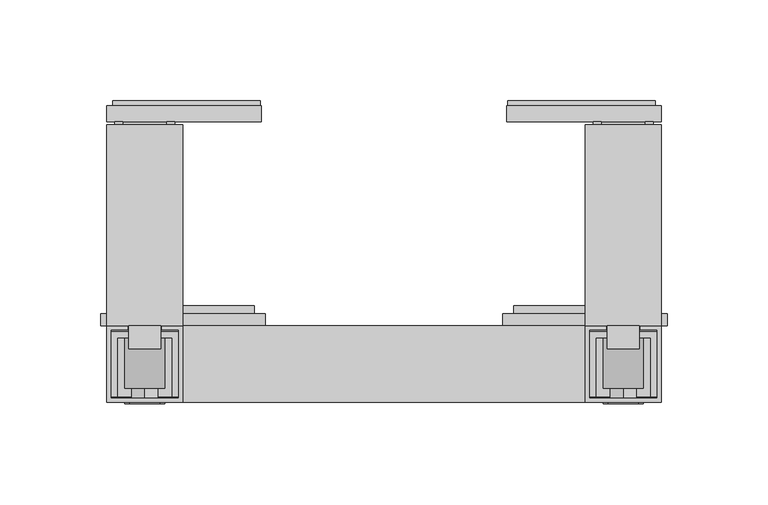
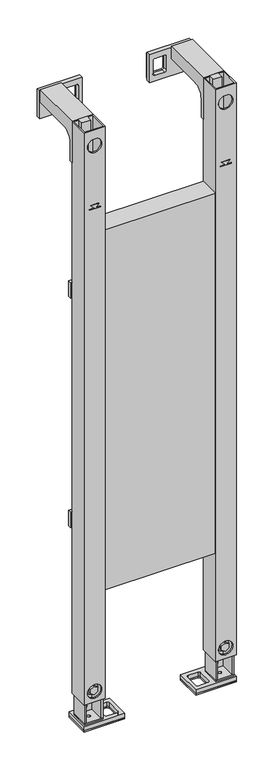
"""IFC4 building model written with IfcOpenShell, lengths in millimetres: flow terminal geometry, nextVIT Stütz-Stützklappgriff-Element : nextVIT Stütz-Stützklappgriff-Element."""

from ifc_helpers import new_model, si_unit, point, frame, frame_2d, origin, origin_with_axes, place, context, project, spatial, polyline, circle_curve, trimmed, segment, composite_curve, outline, extrude, source, transform, mapped, element, save
from ifc_brep_helpers import plane_surface, revolved_surface, advanced_brep


def flow_terminal_50447908(model_context):
    return source(origin(), model_context, "Body", "SolidModel", [
        extrude(outline(polyline([(64.5, -102.0), (138.0, -102.0), (138.0, -150.0), (64.5, -150.0), (64.5, -102.0)]), holes=[composite_curve([segment(trimmed(circle_curve(frame_2d((74.0, -139.0)), 3.0), [point((71.0, -139.0))], [point((74.0, -142.0))], True, "CARTESIAN"), True, "CONTINUOUS"), segment(polyline([(74.0, -142.0), (91.5, -142.0)]), True, "CONTINUOUS"), segment(trimmed(circle_curve(frame_2d((91.5, -139.0)), 3.0), [point((91.5, -142.0))], [point((94.5, -139.0))], True, "CARTESIAN"), True, "CONTINUOUS"), segment(polyline([(94.5, -139.0), (94.5, -113.0)]), True, "CONTINUOUS"), segment(trimmed(circle_curve(frame_2d((91.5, -113.0)), 3.0), [point((94.5, -113.0))], [point((91.5, -110.0))], True, "CARTESIAN"), True, "CONTINUOUS"), segment(polyline([(91.5, -110.0), (74.0, -110.0)]), True, "CONTINUOUS"), segment(trimmed(circle_curve(frame_2d((74.0, -113.0)), 3.0), [point((74.0, -110.0))], [point((71.0, -113.0))], True, "CARTESIAN"), True, "CONTINUOUS"), segment(polyline([(71.0, -113.0), (71.0, -139.0)]), True, "CONTINUOUS")], self_intersect=False)]), origin_with_axes(), (0.0, 0.0, 1.0), 2.5),
        extrude(outline(polyline([(64.5, -102.0), (138.0, -102.0), (138.0, -150.0), (64.5, -150.0), (64.5, -102.0)]), holes=[composite_curve([segment(trimmed(circle_curve(frame_2d((74.0, -139.0)), 3.0), [point((71.0, -139.0))], [point((74.0, -142.0))], True, "CARTESIAN"), True, "CONTINUOUS"), segment(polyline([(74.0, -142.0), (91.5, -142.0)]), True, "CONTINUOUS"), segment(trimmed(circle_curve(frame_2d((91.5, -139.0)), 3.0), [point((91.5, -142.0))], [point((94.5, -139.0))], True, "CARTESIAN"), True, "CONTINUOUS"), segment(polyline([(94.5, -139.0), (94.5, -113.0)]), True, "CONTINUOUS"), segment(trimmed(circle_curve(frame_2d((91.5, -113.0)), 3.0), [point((94.5, -113.0))], [point((91.5, -110.0))], True, "CARTESIAN"), True, "CONTINUOUS"), segment(polyline([(91.5, -110.0), (74.0, -110.0)]), True, "CONTINUOUS"), segment(trimmed(circle_curve(frame_2d((74.0, -113.0)), 3.0), [point((74.0, -110.0))], [point((71.0, -113.0))], True, "CARTESIAN"), True, "CONTINUOUS"), segment(polyline([(71.0, -113.0), (71.0, -139.0)]), True, "CONTINUOUS")], self_intersect=False), composite_curve([segment(trimmed(circle_curve(frame_2d((120.45, -121.0)), 3.25), [point((123.7, -121.0))], [point((117.2, -121.0))], True, "CARTESIAN"), True, "CONTINUOUS"), segment(polyline([(117.2, -121.0), (117.2, -131.0)]), True, "CONTINUOUS"), segment(trimmed(circle_curve(frame_2d((120.45, -131.0)), 3.25), [point((117.2, -131.0))], [point((123.7, -131.0))], True, "CARTESIAN"), True, "CONTINUOUS"), segment(polyline([(123.7, -131.0), (123.7, -121.0)]), True, "CONTINUOUS")], self_intersect=False)]), frame((0.0, 0.0, 2.5), z_axis=(0.0, 0.0, 1.0), x_axis=(1.0, 0.0, 0.0)), (0.0, 0.0, 1.0), 8.0),
        advanced_brep(
        [(132.6, -147.1, 363.5), (135.6, -147.1, 363.5), (135.6, -114.9, 363.5), (102.4, -114.9, 363.5), (102.4, -147.1, 363.5), (105.4, -147.1, 363.5), (105.4, -117.9, 363.5), (132.6, -117.9, 363.5), (132.6, -147.1, 13.5), (132.6, -117.9, 13.5), (105.4, -117.9, 13.5), (105.4, -147.1, 13.5), (102.4, -147.1, 13.5), (102.4, -114.9, 13.5), (135.6, -114.9, 13.5), (135.6, -147.1, 13.5), (114.5, -114.9, 23.6801435), (123.5, -114.9, 23.6801435), (114.0, -114.9, 37.7), (124.0, -114.9, 37.7), (124.0, -114.9, 335.5), (114.0, -114.9, 335.5), (123.5, -117.9, 23.6801435), (114.5, -117.9, 23.6801435), (114.0, -117.9, 335.5), (124.0, -117.9, 335.5), (124.0, -117.9, 37.7), (114.0, -117.9, 37.7)],
        [
            (0, 1),
            (1, 2),
            (2, 3),
            (3, 4),
            (4, 5),
            (5, 6),
            (6, 7),
            (7, 0),
            (8, 9),
            (9, 10),
            (10, 11),
            (11, 12),
            (12, 13),
            (13, 14),
            (14, 15),
            (15, 8),
            (3, 13),
            (12, 4),
            (2, 14),
            (16, 17, circle_curve(frame((119.0, -114.9, 23.6801435), z_axis=(0.0, -1.0, 0.0), x_axis=(1.0, 0.0, 0.0)), 4.5)),
            (17, 16, circle_curve(frame((119.0, -114.9, 23.6801435), z_axis=(0.0, -1.0, 0.0), x_axis=(1.0, 0.0, 0.0)), 4.5)),
            (18, 19, circle_curve(frame((119.0, -114.9, 37.7), z_axis=(0.0, -1.0, 0.0), x_axis=(1.0, 0.0, 0.0)), 5.0)),
            (19, 20),
            (20, 21, circle_curve(frame((119.0, -114.9, 335.5), z_axis=(0.0, -1.0, 0.0), x_axis=(1.0, 0.0, 0.0)), 5.0)),
            (21, 18),
            (1, 15),
            (0, 8),
            (7, 9),
            (6, 10),
            (22, 23, circle_curve(frame((119.0, -117.9, 23.6801435), z_axis=(0.0, 1.0, 0.0), x_axis=(1.0, 0.0, 0.0)), 4.5)),
            (23, 22, circle_curve(frame((119.0, -117.9, 23.6801435), z_axis=(0.0, 1.0, 0.0), x_axis=(1.0, 0.0, 0.0)), 4.5)),
            (24, 25, circle_curve(frame((119.0, -117.9, 335.5), z_axis=(0.0, 1.0, 0.0), x_axis=(1.0, 0.0, 0.0)), 5.0)),
            (25, 26),
            (26, 27, circle_curve(frame((119.0, -117.9, 37.7), z_axis=(0.0, 1.0, 0.0), x_axis=(1.0, 0.0, 0.0)), 5.0)),
            (27, 24),
            (5, 11),
            (23, 16),
            (17, 22),
            (27, 18),
            (21, 24),
            (20, 25),
            (19, 26),
        ],
        [
            plane_surface(frame((132.6, -147.1, 363.5), z_axis=(0.0, 0.0, 1.0), x_axis=(0.0, 1.0, 0.0))),
            plane_surface(frame((132.6, -147.1, 13.5), z_axis=(0.0, 0.0, -1.0), x_axis=(0.0, -1.0, 0.0))),
            plane_surface(frame((102.4, -147.1, 363.5), z_axis=(-1.0, 0.0, 0.0), x_axis=(0.0, 0.0, -1.0))),
            plane_surface(frame((102.4, -114.9, 363.5), z_axis=(0.0, 1.0, 0.0), x_axis=(0.0, 0.0, -1.0))),
            plane_surface(frame((135.6, -114.9, 363.5), z_axis=(1.0, 0.0, 0.0), x_axis=(0.0, 0.0, -1.0))),
            plane_surface(frame((135.6, -147.1, 363.5), z_axis=(0.0, -1.0, 0.0), x_axis=(0.0, 0.0, -1.0))),
            plane_surface(frame((132.6, -147.1, 363.5), z_axis=(-1.0, 0.0, 0.0), x_axis=(0.0, 0.0, -1.0))),
            plane_surface(frame((132.6, -117.9, 363.5), z_axis=(0.0, -1.0, 0.0), x_axis=(0.0, 0.0, -1.0))),
            plane_surface(frame((105.4, -117.9, 363.5), z_axis=(1.0, 0.0, 0.0), x_axis=(0.0, 0.0, -1.0))),
            plane_surface(frame((105.4, -147.1, 363.5), z_axis=(0.0, -1.0, 0.0), x_axis=(0.0, 0.0, -1.0))),
            revolved_surface(polyline([(123.5, -117.9, 23.6801435), (123.5, -114.9, 23.6801435)]), (119.0, -117.9, 23.6801435), (0.0, -1.0, 0.0)),
            plane_surface(frame((114.0, -117.9, 37.7), z_axis=(1.0, 0.0, 0.0), x_axis=(0.0, 1.0, 0.0))),
            revolved_surface(polyline([(124.0, -117.9, 335.5), (124.0, -114.9, 335.5)]), (119.0, -117.9, 335.5), (0.0, -1.0, 0.0)),
            plane_surface(frame((124.0, -117.9, 335.5), z_axis=(-1.0, 0.0, 0.0), x_axis=(0.0, 1.0, 0.0))),
            revolved_surface(polyline([(124.0, -117.9, 37.7), (124.0, -114.9, 37.7)]), (119.0, -117.9, 37.7), (0.0, -1.0, 0.0)),
        ],
        [
            (0, [[1, 2, 3, 4, 5, 6, 7, 8]]),
            (1, [[9, 10, 11, 12, 13, 14, 15, 16]]),
            (2, [[17, -13, 18, -4]]),
            (3, [[19, -14, -17, -3], [20, 21], [22, 23, 24, 25]]),
            (4, [[26, -15, -19, -2]]),
            (5, [[27, -16, -26, -1]]),
            (6, [[28, -9, -27, -8]]),
            (7, [[29, -10, -28, -7], [30, 31], [32, 33, 34, 35]]),
            (8, [[36, -11, -29, -6]]),
            (9, [[-18, -12, -36, -5]]),
            (10, [[-31, 37, -21, 38]]),
            (10, [[-20, -37, -30, -38]]),
            (11, [[-35, 39, -25, 40]]),
            (12, [[-24, 41, -32, -40]]),
            (13, [[-23, 42, -33, -41]]),
            (14, [[-34, -42, -22, -39]]),
        ],
    ),
        extrude(outline(polyline([(102.4, -147.1), (102.4, -114.9), (135.6, -114.9), (135.6, -147.1), (102.4, -147.1)]), holes=[composite_curve([segment(trimmed(circle_curve(frame_2d((119.0, -131.9)), 2.5), [point((116.5, -131.9))], [point((121.5, -131.9))], True, "CARTESIAN"), True, "CONTINUOUS"), segment(trimmed(circle_curve(frame_2d((119.0, -131.9)), 2.5), [point((121.5, -131.9))], [point((116.5, -131.9))], True, "CARTESIAN"), True, "CONTINUOUS")], self_intersect=False)]), frame((0.0, 0.0, 10.5), z_axis=(0.0, 0.0, 1.0), x_axis=(1.0, 0.0, 0.0)), (0.0, 0.0, 1.0), 3.0),
        extrude(outline(composite_curve([segment(trimmed(circle_curve(frame_2d((72.2, 119.0)), 4.0), [point((72.2, 123.0))], [point((72.2, 115.0))], False, "CARTESIAN"), True, "CONTINUOUS"), segment(trimmed(circle_curve(frame_2d((72.2, 119.0)), 4.0), [point((72.2, 115.0))], [point((72.2, 123.0))], False, "CARTESIAN"), True, "CONTINUOUS")], self_intersect=False)), frame((0.0, -117.0, 0.0), z_axis=(0.0, 1.0, 0.0), x_axis=(0.0, 0.0, 1.0)), (0.0, 0.0, 1.0), 19.0),
        extrude(outline(polyline([(134.0, -109.0), (134.0, -112.0), (104.0, -112.0), (104.0, -109.0), (134.0, -109.0)])), frame((0.0, 0.0, 52.2), z_axis=(0.0, 0.0, 1.0), x_axis=(1.0, 0.0, 0.0)), (0.0, 0.0, 1.0), 40.0),
        extrude(outline(composite_curve([segment(trimmed(circle_curve(frame_2d((72.2, 119.0)), 10.0), [point((72.2, 129.0))], [point((72.2, 109.0))], False, "CARTESIAN"), True, "CONTINUOUS"), segment(trimmed(circle_curve(frame_2d((72.2, 119.0)), 10.0), [point((72.2, 109.0))], [point((72.2, 129.0))], False, "CARTESIAN"), True, "CONTINUOUS")], self_intersect=False)), frame((0.0, -143.0, 0.0), z_axis=(0.0, 1.0, 0.0), x_axis=(0.0, 0.0, 1.0)), (0.0, 0.0, 1.0), 26.0),
        extrude(outline(polyline([(79.7055535, 119.0), (75.9527767, 112.5), (68.4472233, 112.5), (64.6944465, 119.0), (68.4472233, 125.5), (75.9527767, 125.5), (79.7055535, 119.0)])), frame((0.0, -148.3, 0.0), z_axis=(0.0, 1.0, 0.0), x_axis=(0.0, 0.0, 1.0)), (0.0, 0.0, 1.0), 5.3),
        extrude(outline(polyline([(-64.5, -102.0), (-64.5, -150.0), (-138.0, -150.0), (-138.0, -102.0), (-64.5, -102.0)]), holes=[composite_curve([segment(polyline([(-71.0, -139.0), (-71.0, -113.0)]), True, "CONTINUOUS"), segment(trimmed(circle_curve(frame_2d((-74.0, -113.0)), 3.0), [point((-71.0, -113.0))], [point((-74.0, -110.0))], True, "CARTESIAN"), True, "CONTINUOUS"), segment(polyline([(-74.0, -110.0), (-91.5, -110.0)]), True, "CONTINUOUS"), segment(trimmed(circle_curve(frame_2d((-91.5, -113.0)), 3.0), [point((-91.5, -110.0))], [point((-94.5, -113.0))], True, "CARTESIAN"), True, "CONTINUOUS"), segment(polyline([(-94.5, -113.0), (-94.5, -139.0)]), True, "CONTINUOUS"), segment(trimmed(circle_curve(frame_2d((-91.5, -139.0)), 3.0), [point((-94.5, -139.0))], [point((-91.5, -142.0))], True, "CARTESIAN"), True, "CONTINUOUS"), segment(polyline([(-91.5, -142.0), (-74.0, -142.0)]), True, "CONTINUOUS"), segment(trimmed(circle_curve(frame_2d((-74.0, -139.0)), 3.0), [point((-74.0, -142.0))], [point((-71.0, -139.0))], True, "CARTESIAN"), True, "CONTINUOUS")], self_intersect=False)]), origin_with_axes(), (0.0, 0.0, 1.0), 2.5),
        extrude(outline(polyline([(-64.5, -102.0), (-64.5, -150.0), (-138.0, -150.0), (-138.0, -102.0), (-64.5, -102.0)]), holes=[composite_curve([segment(polyline([(-71.0, -139.0), (-71.0, -113.0)]), True, "CONTINUOUS"), segment(trimmed(circle_curve(frame_2d((-74.0, -113.0)), 3.0), [point((-71.0, -113.0))], [point((-74.0, -110.0))], True, "CARTESIAN"), True, "CONTINUOUS"), segment(polyline([(-74.0, -110.0), (-91.5, -110.0)]), True, "CONTINUOUS"), segment(trimmed(circle_curve(frame_2d((-91.5, -113.0)), 3.0), [point((-91.5, -110.0))], [point((-94.5, -113.0))], True, "CARTESIAN"), True, "CONTINUOUS"), segment(polyline([(-94.5, -113.0), (-94.5, -139.0)]), True, "CONTINUOUS"), segment(trimmed(circle_curve(frame_2d((-91.5, -139.0)), 3.0), [point((-94.5, -139.0))], [point((-91.5, -142.0))], True, "CARTESIAN"), True, "CONTINUOUS"), segment(polyline([(-91.5, -142.0), (-74.0, -142.0)]), True, "CONTINUOUS"), segment(trimmed(circle_curve(frame_2d((-74.0, -139.0)), 3.0), [point((-74.0, -142.0))], [point((-71.0, -139.0))], True, "CARTESIAN"), True, "CONTINUOUS")], self_intersect=False), composite_curve([segment(polyline([(-123.7, -121.0), (-123.7, -131.0)]), True, "CONTINUOUS"), segment(trimmed(circle_curve(frame_2d((-120.45, -131.0)), 3.25), [point((-123.7, -131.0))], [point((-117.2, -131.0))], True, "CARTESIAN"), True, "CONTINUOUS"), segment(polyline([(-117.2, -131.0), (-117.2, -121.0)]), True, "CONTINUOUS"), segment(trimmed(circle_curve(frame_2d((-120.45, -121.0)), 3.25), [point((-117.2, -121.0))], [point((-123.7, -121.0))], True, "CARTESIAN"), True, "CONTINUOUS")], self_intersect=False)]), frame((0.0, 0.0, 2.5), z_axis=(0.0, 0.0, 1.0), x_axis=(1.0, 0.0, 0.0)), (0.0, 0.0, 1.0), 8.0),
        extrude(outline(polyline([(1141.522581, 61.5), (1093.522581, 61.5), (1093.522581, 135.0), (1141.522581, 135.0), (1141.522581, 61.5)]), holes=[composite_curve([segment(polyline([(1104.522581, 68.0), (1130.522581, 68.0)]), True, "CONTINUOUS"), segment(trimmed(circle_curve(frame_2d((1130.522581, 71.0)), 3.0), [point((1130.522581, 68.0))], [point((1133.522581, 71.0))], True, "CARTESIAN"), True, "CONTINUOUS"), segment(polyline([(1133.522581, 71.0), (1133.522581, 88.5)]), True, "CONTINUOUS"), segment(trimmed(circle_curve(frame_2d((1130.522581, 88.5)), 3.0), [point((1133.522581, 88.5))], [point((1130.522581, 91.5))], True, "CARTESIAN"), True, "CONTINUOUS"), segment(polyline([(1130.522581, 91.5), (1104.522581, 91.5)]), True, "CONTINUOUS"), segment(trimmed(circle_curve(frame_2d((1104.522581, 88.5)), 3.0), [point((1104.522581, 91.5))], [point((1101.522581, 88.5))], True, "CARTESIAN"), True, "CONTINUOUS"), segment(polyline([(1101.522581, 88.5), (1101.522581, 71.0)]), True, "CONTINUOUS"), segment(trimmed(circle_curve(frame_2d((1104.522581, 71.0)), 3.0), [point((1101.522581, 71.0))], [point((1104.522581, 68.0))], True, "CARTESIAN"), True, "CONTINUOUS")], self_intersect=False)]), frame((0.0, -2.5, 0.0), z_axis=(0.0, 1.0, 0.0), x_axis=(0.0, 0.0, 1.0)), (0.0, 0.0, 1.0), 2.5),
        extrude(outline(polyline([(1141.522581, -61.5), (1141.522581, -135.0), (1093.522581, -135.0), (1093.522581, -61.5), (1141.522581, -61.5)]), holes=[composite_curve([segment(trimmed(circle_curve(frame_2d((1104.522581, -71.0)), 3.0), [point((1104.522581, -68.0))], [point((1101.522581, -71.0))], True, "CARTESIAN"), True, "CONTINUOUS"), segment(polyline([(1101.522581, -71.0), (1101.522581, -88.5)]), True, "CONTINUOUS"), segment(trimmed(circle_curve(frame_2d((1104.522581, -88.5)), 3.0), [point((1101.522581, -88.5))], [point((1104.522581, -91.5))], True, "CARTESIAN"), True, "CONTINUOUS"), segment(polyline([(1104.522581, -91.5), (1130.522581, -91.5)]), True, "CONTINUOUS"), segment(trimmed(circle_curve(frame_2d((1130.522581, -88.5)), 3.0), [point((1130.522581, -91.5))], [point((1133.522581, -88.5))], True, "CARTESIAN"), True, "CONTINUOUS"), segment(polyline([(1133.522581, -88.5), (1133.522581, -71.0)]), True, "CONTINUOUS"), segment(trimmed(circle_curve(frame_2d((1130.522581, -71.0)), 3.0), [point((1133.522581, -71.0))], [point((1130.522581, -68.0))], True, "CARTESIAN"), True, "CONTINUOUS"), segment(polyline([(1130.522581, -68.0), (1104.522581, -68.0)]), True, "CONTINUOUS")], self_intersect=False)]), frame((0.0, -2.5, 0.0), z_axis=(0.0, 1.0, 0.0), x_axis=(0.0, 0.0, 1.0)), (0.0, 0.0, 1.0), 2.5),
        extrude(outline(polyline([(-111.0, -112.0), (-111.0, -123.5), (-127.0, -123.5), (-127.0, -112.0), (-111.0, -112.0)])), frame((0.0, 0.0, 1113.0), z_axis=(0.0, 0.0, 1.0), x_axis=(1.0, 0.0, 0.0)), (0.0, 0.0, 1.0), 35.0),
        extrude(outline(polyline([(1144.022581, -138.0), (1091.022581, -138.0), (1091.022581, -61.0), (1144.022581, -61.0), (1144.022581, -138.0)]), holes=[composite_curve([segment(polyline([(1133.522581, -88.5), (1133.522581, -71.0)]), True, "CONTINUOUS"), segment(trimmed(circle_curve(frame_2d((1130.522581, -71.0)), 3.0), [point((1133.522581, -71.0))], [point((1130.522581, -68.0))], True, "CARTESIAN"), True, "CONTINUOUS"), segment(polyline([(1130.522581, -68.0), (1104.522581, -68.0)]), True, "CONTINUOUS"), segment(trimmed(circle_curve(frame_2d((1104.522581, -71.0)), 3.0), [point((1104.522581, -68.0))], [point((1101.522581, -71.0))], True, "CARTESIAN"), True, "CONTINUOUS"), segment(polyline([(1101.522581, -71.0), (1101.522581, -88.5)]), True, "CONTINUOUS"), segment(trimmed(circle_curve(frame_2d((1104.522581, -88.5)), 3.0), [point((1101.522581, -88.5))], [point((1104.522581, -91.5))], True, "CARTESIAN"), True, "CONTINUOUS"), segment(polyline([(1104.522581, -91.5), (1130.522581, -91.5)]), True, "CONTINUOUS"), segment(trimmed(circle_curve(frame_2d((1130.522581, -88.5)), 3.0), [point((1130.522581, -91.5))], [point((1133.522581, -88.5))], True, "CARTESIAN"), True, "CONTINUOUS")], self_intersect=False)]), frame((0.0, -10.5, 0.0), z_axis=(0.0, 1.0, 0.0), x_axis=(0.0, 0.0, 1.0)), (0.0, 0.0, 1.0), 8.0),
        extrude(outline(polyline([(1128.022581, -108.05), (1128.022581, -129.95), (1145.0, -129.95), (1145.0, -133.95), (1124.5225837, -133.95), (1124.5225837, -104.05), (1145.0, -104.05), (1145.0, -108.05), (1128.022581, -108.05)])), frame((0.0, -105.0, 0.0), z_axis=(0.0, 1.0, 0.0), x_axis=(0.0, 0.0, 1.0)), (0.0, 0.0, 1.0), 94.5),
        advanced_brep(
        [(-100.0, -12.0882353, 1124.0), (-100.0, -12.0882353, 1148.0), (-100.0, -112.0, 1148.0), (-100.0, -112.0, 1069.0231613), (-100.0, -106.0, 1069.0231613), (-100.0, -106.0, 1104.0), (-100.0, -86.0, 1124.0), (-138.0, -12.0882353, 1124.0), (-138.0, -86.0, 1124.0), (-138.0, -106.0, 1104.0), (-138.0, -106.0, 1069.0231613), (-138.0, -112.0, 1069.0231613), (-138.0, -112.0, 1148.0), (-138.0, -12.0882353, 1148.0), (-103.0, -12.0882353, 1124.0), (-103.0, -12.0882353, 1144.0), (-135.0, -12.0882353, 1144.0), (-135.0, -12.0882353, 1124.0), (-135.0, -106.0, 1104.0), (-135.0, -106.0, 1144.0), (-103.0, -106.0, 1144.0), (-103.0, -106.0, 1104.0), (-103.0, -86.0, 1124.0), (-135.0, -86.0, 1124.0)],
        [
            (0, 1),
            (1, 2),
            (2, 3),
            (3, 4),
            (4, 5),
            (5, 6, circle_curve(frame((-100.0, -86.0, 1104.0), z_axis=(-1.0, 0.0, 0.0), x_axis=(0.0, 1.0, 0.0)), 20.0)),
            (6, 0),
            (7, 8),
            (8, 9, circle_curve(frame((-138.0, -86.0, 1104.0), z_axis=(1.0, 0.0, 0.0), x_axis=(0.0, 1.0, 0.0)), 20.0)),
            (9, 10),
            (10, 11),
            (11, 12),
            (12, 13),
            (13, 7),
            (0, 14),
            (14, 15),
            (15, 16),
            (16, 17),
            (17, 7),
            (13, 1),
            (12, 2),
            (11, 3),
            (10, 4),
            (9, 18),
            (18, 19),
            (19, 20),
            (20, 21),
            (21, 5),
            (21, 22, circle_curve(frame((-103.0, -86.0, 1104.0), z_axis=(-1.0, 0.0, 0.0), x_axis=(0.0, 1.0, 0.0)), 20.0)),
            (22, 6),
            (8, 23),
            (23, 18, circle_curve(frame((-135.0, -86.0, 1104.0), z_axis=(1.0, 0.0, 0.0), x_axis=(0.0, 1.0, 0.0)), 20.0)),
            (22, 14),
            (17, 23),
            (20, 15),
            (19, 16),
        ],
        [
            plane_surface(frame((-100.0, -12.0882353, 1124.0), z_axis=(1.0, 0.0, 0.0), x_axis=(0.0, 0.0, 1.0))),
            plane_surface(frame((-138.0, -12.0882353, 1124.0), z_axis=(-1.0, 0.0, 0.0), x_axis=(0.0, 0.0, -1.0))),
            plane_surface(frame((-100.0, -12.0882353, 1124.0), z_axis=(0.0, 1.0, 0.0), x_axis=(-1.0, 0.0, 0.0))),
            plane_surface(frame((-100.0, -12.0882353, 1148.0), z_axis=(0.0, 0.0, 1.0), x_axis=(-1.0, 0.0, 0.0))),
            plane_surface(frame((-100.0, -112.0, 1148.0), z_axis=(0.0, -1.0, 0.0), x_axis=(-1.0, 0.0, 0.0))),
            plane_surface(frame((-100.0, -112.0, 1069.0231613), z_axis=(0.0, 0.0, -1.0), x_axis=(-1.0, 0.0, 0.0))),
            plane_surface(frame((-100.0, -106.0, 1069.0231613), z_axis=(0.0, 1.0, 0.0), x_axis=(-1.0, 0.0, 0.0))),
            revolved_surface(polyline([(-103.0, -66.0, 1104.0), (-100.0, -66.0, 1104.0)]), (-138.0, -86.0, 1104.0), (-1.0, 0.0, 0.0)),
            revolved_surface(polyline([(-138.0, -66.0, 1104.0), (-135.0, -66.0, 1104.0)]), (-138.0, -86.0, 1104.0), (-1.0, 0.0, 0.0)),
            plane_surface(frame((-100.0, -86.0, 1124.0), z_axis=(0.0, 0.0, -1.0), x_axis=(-1.0, 0.0, 0.0))),
            plane_surface(frame((-103.0, -106.0, 1102.9875977), z_axis=(-1.0, 0.0, 0.0), x_axis=(0.0, 1.0, 0.0))),
            plane_surface(frame((-103.0, -106.0, 1144.0), z_axis=(0.0, 0.0, -1.0), x_axis=(0.0, 1.0, 0.0))),
            plane_surface(frame((-135.0, -106.0, 1144.0), z_axis=(1.0, 0.0, 0.0), x_axis=(0.0, 1.0, 0.0))),
        ],
        [
            (0, [[1, 2, 3, 4, 5, 6, 7]]),
            (1, [[8, 9, 10, 11, 12, 13, 14]]),
            (2, [[-1, 15, 16, 17, 18, 19, -14, 20]]),
            (3, [[-2, -20, -13, 21]]),
            (4, [[-3, -21, -12, 22]]),
            (5, [[-4, -22, -11, 23]]),
            (6, [[-5, -23, -10, 24, 25, 26, 27, 28]]),
            (7, [[-6, -28, 29, 30]]),
            (8, [[-9, 31, 32, -24]]),
            (9, [[-7, -30, 33, -15]]),
            (9, [[-8, -19, 34, -31]]),
            (10, [[35, -16, -33, -29, -27]]),
            (11, [[-26, 36, -17, -35]]),
            (12, [[-36, -25, -32, -34, -18]]),
        ],
    ),
        extrude(outline(polyline([(111.0, -112.0), (127.0, -112.0), (127.0, -123.5), (111.0, -123.5), (111.0, -112.0)])), frame((0.0, 0.0, 1113.0), z_axis=(0.0, 0.0, 1.0), x_axis=(1.0, 0.0, 0.0)), (0.0, 0.0, 1.0), 35.0),
        extrude(outline(polyline([(1144.022581, 138.0), (1144.022581, 61.0), (1091.022581, 61.0), (1091.022581, 138.0), (1144.022581, 138.0)]), holes=[composite_curve([segment(trimmed(circle_curve(frame_2d((1130.522581, 88.5)), 3.0), [point((1133.522581, 88.5))], [point((1130.522581, 91.5))], True, "CARTESIAN"), True, "CONTINUOUS"), segment(polyline([(1130.522581, 91.5), (1104.522581, 91.5)]), True, "CONTINUOUS"), segment(trimmed(circle_curve(frame_2d((1104.522581, 88.5)), 3.0), [point((1104.522581, 91.5))], [point((1101.522581, 88.5))], True, "CARTESIAN"), True, "CONTINUOUS"), segment(polyline([(1101.522581, 88.5), (1101.522581, 71.0)]), True, "CONTINUOUS"), segment(trimmed(circle_curve(frame_2d((1104.522581, 71.0)), 3.0), [point((1101.522581, 71.0))], [point((1104.522581, 68.0))], True, "CARTESIAN"), True, "CONTINUOUS"), segment(polyline([(1104.522581, 68.0), (1130.522581, 68.0)]), True, "CONTINUOUS"), segment(trimmed(circle_curve(frame_2d((1130.522581, 71.0)), 3.0), [point((1130.522581, 68.0))], [point((1133.522581, 71.0))], True, "CARTESIAN"), True, "CONTINUOUS"), segment(polyline([(1133.522581, 71.0), (1133.522581, 88.5)]), True, "CONTINUOUS")], self_intersect=False)]), frame((0.0, -10.5, 0.0), z_axis=(0.0, 1.0, 0.0), x_axis=(0.0, 0.0, 1.0)), (0.0, 0.0, 1.0), 8.0),
        extrude(outline(polyline([(1128.022581, 108.05), (1145.0, 108.05), (1145.0, 104.05), (1124.5225837, 104.05), (1124.5225837, 133.95), (1145.0, 133.95), (1145.0, 129.95), (1128.022581, 129.95), (1128.022581, 108.05)])), frame((0.0, -105.0, 0.0), z_axis=(0.0, 1.0, 0.0), x_axis=(0.0, 0.0, 1.0)), (0.0, 0.0, 1.0), 94.5),
        advanced_brep(
        [(100.0, -12.0882353, 1124.0), (100.0, -86.0, 1124.0), (100.0, -106.0, 1104.0), (100.0, -106.0, 1069.0231613), (100.0, -112.0, 1069.0231613), (100.0, -112.0, 1148.0), (100.0, -12.0882353, 1148.0), (138.0, -12.0882353, 1124.0), (138.0, -12.0882353, 1148.0), (138.0, -112.0, 1148.0), (138.0, -112.0, 1069.0231613), (138.0, -106.0, 1069.0231613), (138.0, -106.0, 1104.0), (138.0, -86.0, 1124.0), (135.0, -12.0882353, 1124.0), (135.0, -12.0882353, 1144.0), (103.0, -12.0882353, 1144.0), (103.0, -12.0882353, 1124.0), (103.0, -106.0, 1104.0), (103.0, -106.0, 1144.0), (135.0, -106.0, 1144.0), (135.0, -106.0, 1104.0), (103.0, -86.0, 1124.0), (135.0, -86.0, 1124.0)],
        [
            (0, 1),
            (1, 2, circle_curve(frame((100.0, -86.0, 1104.0), z_axis=(1.0, 0.0, 0.0), x_axis=(0.0, 1.0, 0.0)), 20.0)),
            (2, 3),
            (3, 4),
            (4, 5),
            (5, 6),
            (6, 0),
            (7, 8),
            (8, 9),
            (9, 10),
            (10, 11),
            (11, 12),
            (12, 13, circle_curve(frame((138.0, -86.0, 1104.0), z_axis=(-1.0, 0.0, 0.0), x_axis=(0.0, 1.0, 0.0)), 20.0)),
            (13, 7),
            (6, 8),
            (7, 14),
            (14, 15),
            (15, 16),
            (16, 17),
            (17, 0),
            (5, 9),
            (4, 10),
            (3, 11),
            (2, 18),
            (18, 19),
            (19, 20),
            (20, 21),
            (21, 12),
            (1, 22),
            (22, 18, circle_curve(frame((103.0, -86.0, 1104.0), z_axis=(1.0, 0.0, 0.0), x_axis=(0.0, 1.0, 0.0)), 20.0)),
            (21, 23, circle_curve(frame((135.0, -86.0, 1104.0), z_axis=(-1.0, 0.0, 0.0), x_axis=(0.0, 1.0, 0.0)), 20.0)),
            (23, 13),
            (17, 22),
            (23, 14),
            (16, 19),
            (15, 20),
        ],
        [
            plane_surface(frame((100.0, -12.0882353, 1124.0), z_axis=(-1.0, 0.0, 0.0), x_axis=(0.0, 0.0, -1.0))),
            plane_surface(frame((138.0, -12.0882353, 1124.0), z_axis=(1.0, 0.0, 0.0), x_axis=(0.0, 0.0, 1.0))),
            plane_surface(frame((138.0, -12.0882353, 1124.0), z_axis=(0.0, 1.0, 0.0), x_axis=(-1.0, 0.0, 0.0))),
            plane_surface(frame((138.0, -12.0882353, 1148.0), z_axis=(0.0, 0.0, 1.0), x_axis=(-1.0, 0.0, 0.0))),
            plane_surface(frame((138.0, -112.0, 1148.0), z_axis=(0.0, -1.0, 0.0), x_axis=(-1.0, 0.0, 0.0))),
            plane_surface(frame((138.0, -112.0, 1069.0231613), z_axis=(0.0, 0.0, -1.0), x_axis=(-1.0, 0.0, 0.0))),
            plane_surface(frame((138.0, -106.0, 1069.0231613), z_axis=(0.0, 1.0, 0.0), x_axis=(-1.0, 0.0, 0.0))),
            revolved_surface(polyline([(100.0, -66.0, 1104.0), (103.0, -66.0, 1104.0)]), (100.0, -86.0, 1104.0), (-1.0, 0.0, 0.0)),
            revolved_surface(polyline([(135.0, -66.0, 1104.0), (138.0, -66.0, 1104.0)]), (100.0, -86.0, 1104.0), (-1.0, 0.0, 0.0)),
            plane_surface(frame((138.0, -86.0, 1124.0), z_axis=(0.0, 0.0, -1.0), x_axis=(-1.0, 0.0, 0.0))),
            plane_surface(frame((103.0, -106.0, 1144.0), z_axis=(1.0, 0.0, 0.0), x_axis=(0.0, 1.0, 0.0))),
            plane_surface(frame((135.0, -106.0, 1144.0), z_axis=(0.0, 0.0, -1.0), x_axis=(0.0, 1.0, 0.0))),
            plane_surface(frame((135.0, -106.0, 1102.9875977), z_axis=(-1.0, 0.0, 0.0), x_axis=(0.0, 1.0, 0.0))),
        ],
        [
            (0, [[1, 2, 3, 4, 5, 6, 7]]),
            (1, [[8, 9, 10, 11, 12, 13, 14]]),
            (2, [[-7, 15, -8, 16, 17, 18, 19, 20]]),
            (3, [[-6, 21, -9, -15]]),
            (4, [[-5, 22, -10, -21]]),
            (5, [[-4, 23, -11, -22]]),
            (6, [[-3, 24, 25, 26, 27, 28, -12, -23]]),
            (7, [[-2, 29, 30, -24]]),
            (8, [[-13, -28, 31, 32]]),
            (9, [[-1, -20, 33, -29]]),
            (9, [[-14, -32, 34, -16]]),
            (10, [[35, -25, -30, -33, -19]]),
            (11, [[-26, -35, -18, 36]]),
            (12, [[-36, -17, -34, -31, -27]]),
        ],
    ),
        advanced_brep(
        [(-132.6, -147.1, 363.5), (-132.6, -117.9, 363.5), (-105.4, -117.9, 363.5), (-105.4, -147.1, 363.5), (-102.4, -147.1, 363.5), (-102.4, -114.9, 363.5), (-135.6, -114.9, 363.5), (-135.6, -147.1, 363.5), (-132.6, -147.1, 13.5), (-135.6, -147.1, 13.5), (-135.6, -114.9, 13.5), (-102.4, -114.9, 13.5), (-102.4, -147.1, 13.5), (-105.4, -147.1, 13.5), (-105.4, -117.9, 13.5), (-132.6, -117.9, 13.5), (-114.5, -114.9, 23.6801435), (-123.5, -114.9, 23.6801435), (-114.0, -114.9, 37.7), (-114.0, -114.9, 335.5), (-124.0, -114.9, 335.5), (-124.0, -114.9, 37.7), (-123.5, -117.9, 23.6801435), (-114.5, -117.9, 23.6801435), (-114.0, -117.9, 335.5), (-114.0, -117.9, 37.7), (-124.0, -117.9, 37.7), (-124.0, -117.9, 335.5)],
        [
            (0, 1),
            (1, 2),
            (2, 3),
            (3, 4),
            (4, 5),
            (5, 6),
            (6, 7),
            (7, 0),
            (8, 9),
            (9, 10),
            (10, 11),
            (11, 12),
            (12, 13),
            (13, 14),
            (14, 15),
            (15, 8),
            (4, 12),
            (11, 5),
            (10, 6),
            (16, 17, circle_curve(frame((-119.0, -114.9, 23.6801435), z_axis=(0.0, -1.0, 0.0), x_axis=(-1.0, 0.0, 0.0)), 4.5)),
            (17, 16, circle_curve(frame((-119.0, -114.9, 23.6801435), z_axis=(0.0, -1.0, 0.0), x_axis=(-1.0, 0.0, 0.0)), 4.5)),
            (18, 19),
            (19, 20, circle_curve(frame((-119.0, -114.9, 335.5), z_axis=(0.0, -1.0, 0.0), x_axis=(-1.0, 0.0, 0.0)), 5.0)),
            (20, 21),
            (21, 18, circle_curve(frame((-119.0, -114.9, 37.7), z_axis=(0.0, -1.0, 0.0), x_axis=(-1.0, 0.0, 0.0)), 5.0)),
            (9, 7),
            (8, 0),
            (15, 1),
            (14, 2),
            (22, 23, circle_curve(frame((-119.0, -117.9, 23.6801435), z_axis=(0.0, 1.0, 0.0), x_axis=(-1.0, 0.0, 0.0)), 4.5)),
            (23, 22, circle_curve(frame((-119.0, -117.9, 23.6801435), z_axis=(0.0, 1.0, 0.0), x_axis=(-1.0, 0.0, 0.0)), 4.5)),
            (24, 25),
            (25, 26, circle_curve(frame((-119.0, -117.9, 37.7), z_axis=(0.0, 1.0, 0.0), x_axis=(-1.0, 0.0, 0.0)), 5.0)),
            (26, 27),
            (27, 24, circle_curve(frame((-119.0, -117.9, 335.5), z_axis=(0.0, 1.0, 0.0), x_axis=(-1.0, 0.0, 0.0)), 5.0)),
            (13, 3),
            (22, 17),
            (16, 23),
            (24, 19),
            (18, 25),
            (27, 20),
            (26, 21),
        ],
        [
            plane_surface(frame((-132.6, -147.1, 363.5), z_axis=(0.0, 0.0, 1.0), x_axis=(0.0, 1.0, 0.0))),
            plane_surface(frame((-132.6, -147.1, 13.5), z_axis=(0.0, 0.0, -1.0), x_axis=(0.0, -1.0, 0.0))),
            plane_surface(frame((-102.4, -147.1, 363.5), z_axis=(1.0, 0.0, 0.0), x_axis=(0.0, 0.0, -1.0))),
            plane_surface(frame((-102.4, -114.9, 363.5), z_axis=(0.0, 1.0, 0.0), x_axis=(0.0, 0.0, -1.0))),
            plane_surface(frame((-135.6, -114.9, 363.5), z_axis=(-1.0, 0.0, 0.0), x_axis=(0.0, 0.0, -1.0))),
            plane_surface(frame((-135.6, -147.1, 363.5), z_axis=(0.0, -1.0, 0.0), x_axis=(0.0, 0.0, -1.0))),
            plane_surface(frame((-132.6, -147.1, 363.5), z_axis=(1.0, 0.0, 0.0), x_axis=(0.0, 0.0, -1.0))),
            plane_surface(frame((-132.6, -117.9, 363.5), z_axis=(0.0, -1.0, 0.0), x_axis=(0.0, 0.0, -1.0))),
            plane_surface(frame((-105.4, -117.9, 363.5), z_axis=(-1.0, 0.0, 0.0), x_axis=(0.0, 0.0, -1.0))),
            plane_surface(frame((-105.4, -147.1, 363.5), z_axis=(0.0, -1.0, 0.0), x_axis=(0.0, 0.0, -1.0))),
            revolved_surface(polyline([(-123.5, -117.9, 23.6801435), (-123.5, -114.9, 23.6801435)]), (-119.0, -117.9, 23.6801435), (0.0, -1.0, 0.0)),
            plane_surface(frame((-114.0, -117.9, 37.7), z_axis=(-1.0, 0.0, 0.0), x_axis=(0.0, 1.0, 0.0))),
            revolved_surface(polyline([(-124.0, -117.9, 335.5), (-124.0, -114.9, 335.5)]), (-119.0, -117.9, 335.5), (0.0, -1.0, 0.0)),
            plane_surface(frame((-124.0, -117.9, 335.5), z_axis=(1.0, 0.0, 0.0), x_axis=(0.0, 1.0, 0.0))),
            revolved_surface(polyline([(-124.0, -117.9, 37.7), (-124.0, -114.9, 37.7)]), (-119.0, -117.9, 37.7), (0.0, -1.0, 0.0)),
        ],
        [
            (0, [[1, 2, 3, 4, 5, 6, 7, 8]]),
            (1, [[9, 10, 11, 12, 13, 14, 15, 16]]),
            (2, [[-5, 17, -12, 18]]),
            (3, [[-6, -18, -11, 19], [20, 21], [22, 23, 24, 25]]),
            (4, [[-7, -19, -10, 26]]),
            (5, [[-8, -26, -9, 27]]),
            (6, [[-1, -27, -16, 28]]),
            (7, [[-2, -28, -15, 29], [30, 31], [32, 33, 34, 35]]),
            (8, [[-3, -29, -14, 36]]),
            (9, [[-4, -36, -13, -17]]),
            (10, [[37, -20, 38, -30]]),
            (10, [[-37, -31, -38, -21]]),
            (11, [[39, -22, 40, -32]]),
            (12, [[-39, -35, 41, -23]]),
            (13, [[-41, -34, 42, -24]]),
            (14, [[-40, -25, -42, -33]]),
        ],
    ),
        extrude(outline(polyline([(-102.4, -147.1), (-135.6, -147.1), (-135.6, -114.9), (-102.4, -114.9), (-102.4, -147.1)]), holes=[composite_curve([segment(trimmed(circle_curve(frame_2d((-119.0, -131.9)), 2.5), [point((-116.5, -131.9))], [point((-121.5, -131.9))], True, "CARTESIAN"), True, "CONTINUOUS"), segment(trimmed(circle_curve(frame_2d((-119.0, -131.9)), 2.5), [point((-121.5, -131.9))], [point((-116.5, -131.9))], True, "CARTESIAN"), True, "CONTINUOUS")], self_intersect=False)]), frame((0.0, 0.0, 10.5), z_axis=(0.0, 0.0, 1.0), x_axis=(1.0, 0.0, 0.0)), (0.0, 0.0, 1.0), 3.0),
        extrude(outline(composite_curve([segment(trimmed(circle_curve(frame_2d((72.2, -119.0)), 4.0), [point((72.2, -123.0))], [point((72.2, -115.0))], False, "CARTESIAN"), True, "CONTINUOUS"), segment(trimmed(circle_curve(frame_2d((72.2, -119.0)), 4.0), [point((72.2, -115.0))], [point((72.2, -123.0))], False, "CARTESIAN"), True, "CONTINUOUS")], self_intersect=False)), frame((0.0, -117.0, 0.0), z_axis=(0.0, 1.0, 0.0), x_axis=(0.0, 0.0, 1.0)), (0.0, 0.0, 1.0), 19.0),
        extrude(outline(polyline([(-134.0, -109.0), (-104.0, -109.0), (-104.0, -112.0), (-134.0, -112.0), (-134.0, -109.0)])), frame((0.0, 0.0, 52.2), z_axis=(0.0, 0.0, 1.0), x_axis=(1.0, 0.0, 0.0)), (0.0, 0.0, 1.0), 40.0),
        extrude(outline(composite_curve([segment(trimmed(circle_curve(frame_2d((72.2, -119.0)), 10.0), [point((72.2, -129.0))], [point((72.2, -109.0))], False, "CARTESIAN"), True, "CONTINUOUS"), segment(trimmed(circle_curve(frame_2d((72.2, -119.0)), 10.0), [point((72.2, -109.0))], [point((72.2, -129.0))], False, "CARTESIAN"), True, "CONTINUOUS")], self_intersect=False)), frame((0.0, -143.0, 0.0), z_axis=(0.0, 1.0, 0.0), x_axis=(0.0, 0.0, 1.0)), (0.0, 0.0, 1.0), 26.0),
        extrude(outline(polyline([(79.7055535, -119.0), (75.9527767, -125.5), (68.4472233, -125.5), (64.6944465, -119.0), (68.4472233, -112.5), (75.9527767, -112.5), (79.7055535, -119.0)])), frame((0.0, -148.3, 0.0), z_axis=(0.0, 1.0, 0.0), x_axis=(0.0, 0.0, 1.0)), (0.0, 0.0, 1.0), 5.3),
        extrude(outline(polyline([(998.0, -109.0), (998.8, -109.0), (998.8, -118.2), (1005.5, -111.5), (1005.5, -126.5), (998.8, -119.8), (998.8, -128.9917762), (998.0, -128.9917762), (998.0, -109.0)])), frame((0.0, -150.8323234, 0.0), z_axis=(0.0, 1.0, 0.0), x_axis=(0.0, 0.0, 1.0)), (0.0, 0.0, 1.0), 0.8323234),
        advanced_brep(
        [(-138.0, -112.0, 1148.0), (-138.0, -150.0, 1148.0), (-100.0, -150.0, 1148.0), (-100.0, -112.0, 1148.0), (-110.5, -112.0, 1148.0), (-110.5, -114.0, 1148.0), (-102.0, -114.0, 1148.0), (-102.0, -148.0, 1148.0), (-136.0, -148.0, 1148.0), (-136.0, -114.0, 1148.0), (-127.5, -114.0, 1148.0), (-127.5, -112.0, 1148.0), (-138.0, -112.0, 52.0), (-127.5, -112.0, 52.0), (-127.5, -114.0, 52.0), (-136.0, -114.0, 52.0), (-136.0, -148.0, 52.0), (-102.0, -148.0, 52.0), (-102.0, -114.0, 52.0), (-110.5, -114.0, 52.0), (-110.5, -112.0, 52.0), (-100.0, -112.0, 52.0), (-100.0, -150.0, 52.0), (-138.0, -150.0, 52.0), (-106.0, -150.0, 72.0), (-132.0, -150.0, 72.0), (-106.0, -150.0, 1118.0), (-132.0, -150.0, 1118.0), (-132.0, -148.0, 72.0), (-106.0, -148.0, 72.0), (-132.0, -148.0, 1118.0), (-106.0, -148.0, 1118.0)],
        [
            (0, 1),
            (1, 2),
            (2, 3),
            (3, 4),
            (4, 5),
            (5, 6),
            (6, 7),
            (7, 8),
            (8, 9),
            (9, 10),
            (10, 11),
            (11, 0),
            (12, 13),
            (13, 14),
            (14, 15),
            (15, 16),
            (16, 17),
            (17, 18),
            (18, 19),
            (19, 20),
            (20, 21),
            (21, 22),
            (22, 23),
            (23, 12),
            (0, 12),
            (23, 1),
            (22, 2),
            (24, 25, circle_curve(frame((-119.0, -150.0, 72.0), z_axis=(0.0, 1.0, 0.0), x_axis=(1.0, 0.0, 0.0)), 13.0)),
            (25, 24, circle_curve(frame((-119.0, -150.0, 72.0), z_axis=(0.0, 1.0, 0.0), x_axis=(1.0, 0.0, 0.0)), 13.0)),
            (26, 27, circle_curve(frame((-119.0, -150.0, 1118.0), z_axis=(0.0, 1.0, 0.0), x_axis=(1.0, 0.0, 0.0)), 13.0)),
            (27, 26, circle_curve(frame((-119.0, -150.0, 1118.0), z_axis=(0.0, 1.0, 0.0), x_axis=(1.0, 0.0, 0.0)), 13.0)),
            (21, 3),
            (20, 4),
            (19, 5),
            (18, 6),
            (17, 7),
            (16, 8),
            (28, 29, circle_curve(frame((-119.0, -148.0, 72.0), z_axis=(0.0, -1.0, 0.0), x_axis=(1.0, 0.0, 0.0)), 13.0)),
            (29, 28, circle_curve(frame((-119.0, -148.0, 72.0), z_axis=(0.0, -1.0, 0.0), x_axis=(1.0, 0.0, 0.0)), 13.0)),
            (30, 31, circle_curve(frame((-119.0, -148.0, 1118.0), z_axis=(0.0, -1.0, 0.0), x_axis=(1.0, 0.0, 0.0)), 13.0)),
            (31, 30, circle_curve(frame((-119.0, -148.0, 1118.0), z_axis=(0.0, -1.0, 0.0), x_axis=(1.0, 0.0, 0.0)), 13.0)),
            (15, 9),
            (14, 10),
            (13, 11),
            (28, 25),
            (24, 29),
            (30, 27),
            (26, 31),
        ],
        [
            plane_surface(frame((-138.0, -150.0, 1148.0), z_axis=(0.0, 0.0, 1.0), x_axis=(0.0, -1.0, 0.0))),
            plane_surface(frame((-138.0, -150.0, 52.0), z_axis=(0.0, 0.0, -1.0), x_axis=(0.0, 1.0, 0.0))),
            plane_surface(frame((-138.0, -112.0, 1148.0), z_axis=(-1.0, 0.0, 0.0), x_axis=(0.0, 0.0, -1.0))),
            plane_surface(frame((-138.0, -150.0, 1148.0), z_axis=(0.0, -1.0, 0.0), x_axis=(0.0, 0.0, -1.0))),
            plane_surface(frame((-100.0, -150.0, 1148.0), z_axis=(1.0, 0.0, 0.0), x_axis=(0.0, 0.0, -1.0))),
            plane_surface(frame((-100.0, -112.0, 1148.0), z_axis=(0.0, 1.0, 0.0), x_axis=(0.0, 0.0, -1.0))),
            plane_surface(frame((-110.5, -112.0, 1148.0), z_axis=(-1.0, 0.0, 0.0), x_axis=(0.0, 0.0, -1.0))),
            plane_surface(frame((-110.5, -114.0, 1148.0), z_axis=(0.0, -1.0, 0.0), x_axis=(0.0, 0.0, -1.0))),
            plane_surface(frame((-102.0, -114.0, 1148.0), z_axis=(-1.0, 0.0, 0.0), x_axis=(0.0, 0.0, -1.0))),
            plane_surface(frame((-102.0, -148.0, 1148.0), z_axis=(0.0, 1.0, 0.0), x_axis=(0.0, 0.0, -1.0))),
            plane_surface(frame((-136.0, -148.0, 1148.0), z_axis=(1.0, 0.0, 0.0), x_axis=(0.0, 0.0, -1.0))),
            plane_surface(frame((-136.0, -114.0, 1148.0), z_axis=(0.0, -1.0, 0.0), x_axis=(0.0, 0.0, -1.0))),
            plane_surface(frame((-127.5, -114.0, 1148.0), z_axis=(1.0, 0.0, 0.0), x_axis=(0.0, 0.0, -1.0))),
            plane_surface(frame((-127.5, -112.0, 1148.0), z_axis=(0.0, 1.0, 0.0), x_axis=(0.0, 0.0, -1.0))),
            revolved_surface(polyline([(-106.0, -148.0, 72.0), (-106.0, -150.0, 72.0)]), (-119.0, -148.0, 72.0), (0.0, 1.0, 0.0)),
            revolved_surface(polyline([(-106.0, -148.0, 1118.0), (-106.0, -150.0, 1118.0)]), (-119.0, -148.0, 1118.0), (0.0, 1.0, 0.0)),
        ],
        [
            (0, [[1, 2, 3, 4, 5, 6, 7, 8, 9, 10, 11, 12]]),
            (1, [[13, 14, 15, 16, 17, 18, 19, 20, 21, 22, 23, 24]]),
            (2, [[-1, 25, -24, 26]]),
            (3, [[-2, -26, -23, 27], [28, 29], [30, 31]]),
            (4, [[-3, -27, -22, 32]]),
            (5, [[-4, -32, -21, 33]]),
            (6, [[-5, -33, -20, 34]]),
            (7, [[-6, -34, -19, 35]]),
            (8, [[-7, -35, -18, 36]]),
            (9, [[-8, -36, -17, 37], [38, 39], [40, 41]]),
            (10, [[-9, -37, -16, 42]]),
            (11, [[-10, -42, -15, 43]]),
            (12, [[-11, -43, -14, 44]]),
            (13, [[-12, -44, -13, -25]]),
            (14, [[45, -28, 46, -38]]),
            (14, [[-45, -39, -46, -29]]),
            (15, [[47, -30, 48, -40]]),
            (15, [[-47, -41, -48, -31]]),
        ],
    ),
        extrude(outline(polyline([(100.0, -112.0), (100.0, -150.0), (-100.0, -150.0), (-100.0, -112.0), (100.0, -112.0)])), frame((0.0, 0.0, 260.0), z_axis=(0.0, 0.0, 1.0), x_axis=(1.0, 0.0, 0.0)), (0.0, 0.0, 1.0), 690.0),
        extrude(outline(polyline([(840.0, 141.0), (840.0, 59.0), (810.0, 59.0), (810.0, 141.0), (840.0, 141.0)]), holes=[composite_curve([segment(trimmed(circle_curve(frame_2d((825.0, 74.0)), 4.5), [point((825.0, 69.5))], [point((825.0, 78.5))], True, "CARTESIAN"), True, "CONTINUOUS"), segment(trimmed(circle_curve(frame_2d((825.0, 74.0)), 4.5), [point((825.0, 78.5))], [point((825.0, 69.5))], True, "CARTESIAN"), True, "CONTINUOUS")], self_intersect=False), composite_curve([segment(trimmed(circle_curve(frame_2d((825.0, 123.0)), 4.5), [point((825.0, 118.5))], [point((825.0, 127.5))], True, "CARTESIAN"), True, "CONTINUOUS"), segment(trimmed(circle_curve(frame_2d((825.0, 123.0)), 4.5), [point((825.0, 127.5))], [point((825.0, 118.5))], True, "CARTESIAN"), True, "CONTINUOUS")], self_intersect=False)]), frame((0.0, -112.0, 0.0), z_axis=(0.0, 1.0, 0.0), x_axis=(0.0, 0.0, 1.0)), (0.0, 0.0, 1.0), 6.0),
        extrude(outline(polyline([(840.0, -141.0), (810.0, -141.0), (810.0, -59.0), (840.0, -59.0), (840.0, -141.0)]), holes=[composite_curve([segment(trimmed(circle_curve(frame_2d((825.0, -74.0)), 5.0), [point((825.0, -79.0))], [point((825.0, -69.0))], True, "CARTESIAN"), True, "CONTINUOUS"), segment(trimmed(circle_curve(frame_2d((825.0, -74.0)), 5.0), [point((825.0, -69.0))], [point((825.0, -79.0))], True, "CARTESIAN"), True, "CONTINUOUS")], self_intersect=False), composite_curve([segment(trimmed(circle_curve(frame_2d((825.0, -123.0)), 4.5), [point((825.0, -127.5))], [point((825.0, -118.5))], True, "CARTESIAN"), True, "CONTINUOUS"), segment(trimmed(circle_curve(frame_2d((825.0, -123.0)), 4.5), [point((825.0, -118.5))], [point((825.0, -127.5))], True, "CARTESIAN"), True, "CONTINUOUS")], self_intersect=False)]), frame((0.0, -112.0, 0.0), z_axis=(0.0, 1.0, 0.0), x_axis=(0.0, 0.0, 1.0)), (0.0, 0.0, 1.0), 6.0),
        extrude(outline(polyline([(400.0, -59.0), (400.0, -141.0), (370.0, -141.0), (370.0, -59.0), (400.0, -59.0)]), holes=[composite_curve([segment(trimmed(circle_curve(frame_2d((385.0, -74.0)), 5.0), [point((385.0, -69.0))], [point((385.0, -79.0))], True, "CARTESIAN"), True, "CONTINUOUS"), segment(trimmed(circle_curve(frame_2d((385.0, -74.0)), 5.0), [point((385.0, -79.0))], [point((385.0, -69.0))], True, "CARTESIAN"), True, "CONTINUOUS")], self_intersect=False), composite_curve([segment(trimmed(circle_curve(frame_2d((385.0, -123.0)), 4.5), [point((385.0, -118.5))], [point((385.0, -127.5))], True, "CARTESIAN"), True, "CONTINUOUS"), segment(trimmed(circle_curve(frame_2d((385.0, -123.0)), 4.5), [point((385.0, -127.5))], [point((385.0, -118.5))], True, "CARTESIAN"), True, "CONTINUOUS")], self_intersect=False)]), frame((0.0, -112.0, 0.0), z_axis=(0.0, 1.0, 0.0), x_axis=(0.0, 0.0, 1.0)), (0.0, 0.0, 1.0), 6.0),
        extrude(outline(polyline([(370.0, 59.0), (370.0, 141.0), (400.0, 141.0), (400.0, 59.0), (370.0, 59.0)]), holes=[composite_curve([segment(trimmed(circle_curve(frame_2d((385.0, 74.0)), 4.5), [point((385.0, 78.5))], [point((385.0, 69.5))], True, "CARTESIAN"), True, "CONTINUOUS"), segment(trimmed(circle_curve(frame_2d((385.0, 74.0)), 4.5), [point((385.0, 69.5))], [point((385.0, 78.5))], True, "CARTESIAN"), True, "CONTINUOUS")], self_intersect=False), composite_curve([segment(trimmed(circle_curve(frame_2d((385.0, 123.0)), 4.5), [point((385.0, 127.5))], [point((385.0, 118.5))], True, "CARTESIAN"), True, "CONTINUOUS"), segment(trimmed(circle_curve(frame_2d((385.0, 123.0)), 4.5), [point((385.0, 118.5))], [point((385.0, 127.5))], True, "CARTESIAN"), True, "CONTINUOUS")], self_intersect=False)]), frame((0.0, -112.0, 0.0), z_axis=(0.0, 1.0, 0.0), x_axis=(0.0, 0.0, 1.0)), (0.0, 0.0, 1.0), 6.0),
        extrude(outline(polyline([(998.0, 109.0), (998.0, 128.9917762), (998.8, 128.9917762), (998.8, 119.8), (1005.5, 126.5), (1005.5, 111.5), (998.8, 118.2), (998.8, 109.0), (998.0, 109.0)])), frame((0.0, -150.7810075, 0.0), z_axis=(0.0, 1.0, 0.0), x_axis=(0.0, 0.0, 1.0)), (0.0, 0.0, 1.0), 0.7810075),
        advanced_brep(
        [(106.0, -148.0, 72.0), (106.0, -150.0, 72.0), (132.0, -150.0, 72.0), (132.0, -148.0, 72.0), (138.0, -112.0, 1148.0), (127.5, -112.0, 1148.0), (127.5, -114.0, 1148.0), (136.0, -114.0, 1148.0), (136.0, -148.0, 1148.0), (102.0, -148.0, 1148.0), (102.0, -114.0, 1148.0), (110.5, -114.0, 1148.0), (110.5, -112.0, 1148.0), (100.0, -112.0, 1148.0), (100.0, -150.0, 1148.0), (138.0, -150.0, 1148.0), (138.0, -112.0, 52.0), (138.0, -150.0, 52.0), (100.0, -150.0, 52.0), (100.0, -112.0, 52.0), (110.5, -112.0, 52.0), (110.5, -114.0, 52.0), (102.0, -114.0, 52.0), (102.0, -148.0, 52.0), (136.0, -148.0, 52.0), (136.0, -114.0, 52.0), (127.5, -114.0, 52.0), (127.5, -112.0, 52.0), (132.0, -150.0, 1118.0), (106.0, -150.0, 1118.0), (106.0, -148.0, 1118.0), (132.0, -148.0, 1118.0)],
        [
            (0, 1),
            (1, 2, circle_curve(frame((119.0, -150.0, 72.0), z_axis=(0.0, -1.0, 0.0), x_axis=(1.0, 0.0, 0.0)), 13.0)),
            (2, 3),
            (3, 0, circle_curve(frame((119.0, -148.0, 72.0), z_axis=(0.0, 1.0, 0.0), x_axis=(1.0, 0.0, 0.0)), 13.0)),
            (0, 3, circle_curve(frame((119.0, -148.0, 72.0), z_axis=(0.0, 1.0, 0.0), x_axis=(1.0, 0.0, 0.0)), 13.0)),
            (2, 1, circle_curve(frame((119.0, -150.0, 72.0), z_axis=(0.0, -1.0, 0.0), x_axis=(1.0, 0.0, 0.0)), 13.0)),
            (4, 5),
            (5, 6),
            (6, 7),
            (7, 8),
            (8, 9),
            (9, 10),
            (10, 11),
            (11, 12),
            (12, 13),
            (13, 14),
            (14, 15),
            (15, 4),
            (16, 17),
            (17, 18),
            (18, 19),
            (19, 20),
            (20, 21),
            (21, 22),
            (22, 23),
            (23, 24),
            (24, 25),
            (25, 26),
            (26, 27),
            (27, 16),
            (15, 17),
            (16, 4),
            (14, 18),
            (28, 29, circle_curve(frame((119.0, -150.0, 1118.0), z_axis=(0.0, 1.0, 0.0), x_axis=(1.0, 0.0, 0.0)), 13.0)),
            (29, 28, circle_curve(frame((119.0, -150.0, 1118.0), z_axis=(0.0, 1.0, 0.0), x_axis=(1.0, 0.0, 0.0)), 13.0)),
            (13, 19),
            (12, 20),
            (11, 21),
            (10, 22),
            (9, 23),
            (8, 24),
            (30, 31, circle_curve(frame((119.0, -148.0, 1118.0), z_axis=(0.0, -1.0, 0.0), x_axis=(1.0, 0.0, 0.0)), 13.0)),
            (31, 30, circle_curve(frame((119.0, -148.0, 1118.0), z_axis=(0.0, -1.0, 0.0), x_axis=(1.0, 0.0, 0.0)), 13.0)),
            (7, 25),
            (6, 26),
            (5, 27),
            (30, 29),
            (28, 31),
        ],
        [
            revolved_surface(polyline([(132.0, -148.0, 72.0), (132.0, -150.0, 72.0)]), (119.0, -148.0, 72.0), (0.0, 1.0, 0.0)),
            plane_surface(frame((138.0, -112.0, 1148.0), z_axis=(0.0, 0.0, 1.0), x_axis=(-1.0, 0.0, 0.0))),
            plane_surface(frame((138.0, -112.0, 52.0), z_axis=(0.0, 0.0, -1.0), x_axis=(1.0, 0.0, 0.0))),
            plane_surface(frame((138.0, -150.0, 1148.0), z_axis=(1.0, 0.0, 0.0), x_axis=(0.0, 0.0, -1.0))),
            plane_surface(frame((100.0, -150.0, 1148.0), z_axis=(0.0, -1.0, 0.0), x_axis=(0.0, 0.0, -1.0))),
            plane_surface(frame((100.0, -112.0, 1148.0), z_axis=(-1.0, 0.0, 0.0), x_axis=(0.0, 0.0, -1.0))),
            plane_surface(frame((110.5, -112.0, 1148.0), z_axis=(0.0, 1.0, 0.0), x_axis=(0.0, 0.0, -1.0))),
            plane_surface(frame((110.5, -114.0, 1148.0), z_axis=(1.0, 0.0, 0.0), x_axis=(0.0, 0.0, -1.0))),
            plane_surface(frame((102.0, -114.0, 1148.0), z_axis=(0.0, -1.0, 0.0), x_axis=(0.0, 0.0, -1.0))),
            plane_surface(frame((102.0, -148.0, 1148.0), z_axis=(1.0, 0.0, 0.0), x_axis=(0.0, 0.0, -1.0))),
            plane_surface(frame((136.0, -148.0, 1148.0), z_axis=(0.0, 1.0, 0.0), x_axis=(0.0, 0.0, -1.0))),
            plane_surface(frame((136.0, -114.0, 1148.0), z_axis=(-1.0, 0.0, 0.0), x_axis=(0.0, 0.0, -1.0))),
            plane_surface(frame((127.5, -114.0, 1148.0), z_axis=(0.0, -1.0, 0.0), x_axis=(0.0, 0.0, -1.0))),
            plane_surface(frame((127.5, -112.0, 1148.0), z_axis=(-1.0, 0.0, 0.0), x_axis=(0.0, 0.0, -1.0))),
            plane_surface(frame((138.0, -112.0, 1148.0), z_axis=(0.0, 1.0, 0.0), x_axis=(0.0, 0.0, -1.0))),
            revolved_surface(polyline([(132.0, -148.0, 1118.0), (132.0, -150.0, 1118.0)]), (119.0, -148.0, 1118.0), (0.0, 1.0, 0.0)),
        ],
        [
            (0, [[1, 2, 3, 4]]),
            (0, [[-1, 5, -3, 6]]),
            (1, [[7, 8, 9, 10, 11, 12, 13, 14, 15, 16, 17, 18]]),
            (2, [[19, 20, 21, 22, 23, 24, 25, 26, 27, 28, 29, 30]]),
            (3, [[-18, 31, -19, 32]]),
            (4, [[-17, 33, -20, -31], [-2, -6], [34, 35]]),
            (5, [[-16, 36, -21, -33]]),
            (6, [[-15, 37, -22, -36]]),
            (7, [[-14, 38, -23, -37]]),
            (8, [[-13, 39, -24, -38]]),
            (9, [[-12, 40, -25, -39]]),
            (10, [[-11, 41, -26, -40], [-4, -5], [42, 43]]),
            (11, [[-10, 44, -27, -41]]),
            (12, [[-9, 45, -28, -44]]),
            (13, [[-8, 46, -29, -45]]),
            (14, [[-7, -32, -30, -46]]),
            (15, [[47, -34, 48, -42]]),
            (15, [[-47, -43, -48, -35]]),
        ],
    ),
    ])


if __name__ == "__main__":
    model = new_model("IFC4")
    model_context = context("Model", 3, world=origin())
    ifc_project = project(units=[si_unit("LENGTHUNIT", "METRE", prefix="MILLI")], contexts=[model_context])
    site = spatial("IfcSite", under=ifc_project)
    building = spatial("IfcBuilding", under=site)
    placement = place(None, origin())
    flow_terminal_shape = flow_terminal_50447908(model_context)
    element("IfcFlowTerminal", 1, ObjectType="nextVIT Stütz-Stützklappgriff-Element : nextVIT Stütz-Stützklappgriff-Element", at=placement, inside=building, context=model_context, shape_type="MappedRepresentation", body=[
        mapped(flow_terminal_shape, transform((0.0, 0.0, 0.0), x_axis=(1.0, 0.0, 0.0), y_axis=(0.0, 1.0, 0.0), z_axis=(0.0, 0.0, 1.0))),
    ])
    save(model, "model.ifc")
